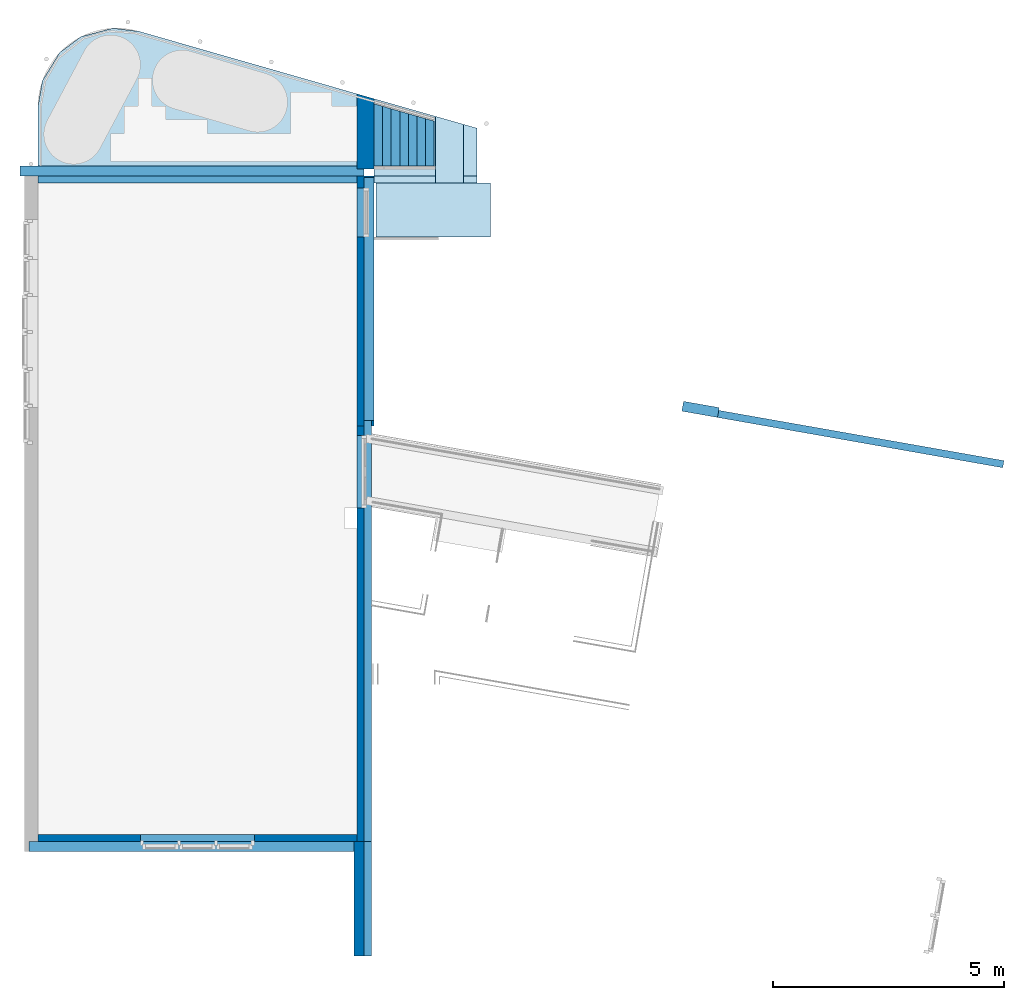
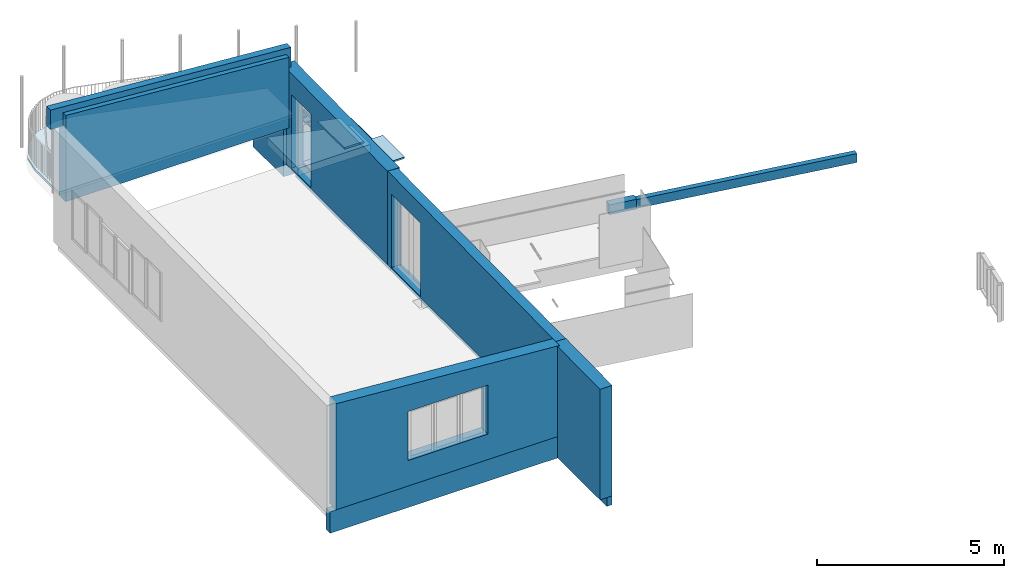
# One storey, part 4 of 9: 13 walls, 5 slabs, 1 stair flight, 11 openings, 2 elements without a shape of their own.
"""IFC2X3 building model written with IfcOpenShell, lengths in millimetres."""

from ifc_helpers import new_model, entity, si_unit, converted_unit, derived_unit, direction, frame, frame_2d, origin, origin_2d_with_axis, place, context, subcontext, project, spatial, polyline, rectangle, outline, extrude, clip, halfspace, bounded_halfspace, faceted_brep, material, layer, layer_set, layer_usage, type_object, element, aggregate, save


model = new_model("IFC2X3")

# Units and contexts
model_context = context("Model", 3, precision=0.01, world=origin(), true_north=direction((6.12303176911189e-17, 1.0)))
body_context = subcontext(model_context, "Body", "Model", "MODEL_VIEW")
ifc_project = project(units=[si_unit("LENGTHUNIT", "METRE", prefix="MILLI"), si_unit("AREAUNIT", "SQUARE_METRE"), si_unit("VOLUMEUNIT", "CUBIC_METRE"), converted_unit("PLANEANGLEUNIT", "DEGREE", entity("IfcRatioMeasure", 0.0174532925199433), si_unit("PLANEANGLEUNIT", "RADIAN"), dimensions=[0, 0, 0, 0, 0, 0, 0]), si_unit("MASSUNIT", "GRAM", prefix="KILO"), derived_unit("MASSDENSITYUNIT", [(si_unit("MASSUNIT", "GRAM", prefix="KILO"), 1), (si_unit("LENGTHUNIT", "METRE"), -3)]), si_unit("TIMEUNIT", "SECOND"), si_unit("FREQUENCYUNIT", "HERTZ"), si_unit("THERMODYNAMICTEMPERATUREUNIT", "DEGREE_CELSIUS"), derived_unit("THERMALTRANSMITTANCEUNIT", [(si_unit("MASSUNIT", "GRAM", prefix="KILO"), 1), (si_unit("THERMODYNAMICTEMPERATUREUNIT", "KELVIN"), -1), (si_unit("TIMEUNIT", "SECOND"), -3)]), derived_unit("VOLUMETRICFLOWRATEUNIT", [(si_unit("LENGTHUNIT", "METRE"), 3), (si_unit("TIMEUNIT", "SECOND"), -1)]), si_unit("ELECTRICCURRENTUNIT", "AMPERE"), si_unit("ELECTRICVOLTAGEUNIT", "VOLT"), si_unit("POWERUNIT", "WATT"), si_unit("FORCEUNIT", "NEWTON", prefix="KILO"), si_unit("ILLUMINANCEUNIT", "LUX"), si_unit("LUMINOUSFLUXUNIT", "LUMEN"), si_unit("LUMINOUSINTENSITYUNIT", "CANDELA"), derived_unit("USERDEFINED", [(si_unit("MASSUNIT", "GRAM", prefix="KILO"), -1), (si_unit("LENGTHUNIT", "METRE"), -2), (si_unit("TIMEUNIT", "SECOND"), 3), (si_unit("LUMINOUSFLUXUNIT", "LUMEN"), 1)]), derived_unit("LINEARVELOCITYUNIT", [(si_unit("LENGTHUNIT", "METRE"), 1), (si_unit("TIMEUNIT", "SECOND"), -1)]), si_unit("PRESSUREUNIT", "PASCAL"), derived_unit("USERDEFINED", [(si_unit("LENGTHUNIT", "METRE"), -2), (si_unit("MASSUNIT", "GRAM", prefix="KILO"), 1), (si_unit("TIMEUNIT", "SECOND"), -2)])], contexts=[model_context])

# Site, building, storey
site_placement = place(None, origin())
site = spatial("IfcSite", under=ifc_project, at=site_placement, Name="<Kadaster Gemeente>;<Kadaster nummer>;<Kadaster sectie>", CompositionType="ELEMENT")
building_placement = place(site_placement, origin())
building = spatial("IfcBuilding", under=site, at=building_placement, Name="JRCZ Middelburg", CompositionType="ELEMENT")
storey_placement = place(building_placement, frame((0.0, 0.0, 3700.0)))
storey = spatial("IfcBuildingStorey", under=building, at=storey_placement, Name="02 tweede verdieping", CompositionType="ELEMENT", Elevation=3700.0)

# Slabs
ifc_material_1 = material(Name="RBM_i2_hout_vuren_gen")
ifc_layer_1 = layer(ifc_material_1, 246.0)
ifc_layer_set_1 = layer_set([ifc_layer_1], Name="Floor:RBM_23_FL_balklaag dak_71x246mm h.o.h.400mm")
ifc_layer_usage_1 = layer_usage(ifc_layer_set_1, "AXIS3", "POSITIVE", 0.0)
slab_type_1 = type_object("IfcSlabType", Name="Floor:RBM_23_FL_balklaag dak_71x246mm h.o.h.400mm", PredefinedType="FLOOR", material=ifc_layer_set_1)
slab_1_placement = place(storey_placement, origin())
element("IfcSlab", 1, at=slab_1_placement, inside=storey, type_object=slab_type_1, material=ifc_layer_usage_1, Name="Floor:RBM_23_FL_balklaag dak_71x246mm h.o.h.400mm", ObjectType="Floor:RBM_23_FL_balklaag dak_71x246mm h.o.h.400mm", PredefinedType="FLOOR", context=body_context, shape_type="SweptSolid", body=[
    extrude(outline(polyline([(-674.678717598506, -1116.81643041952), (994.922385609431, -1116.81643041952), (354.435049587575, 1116.81643041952), (-674.678717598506, 1116.81643041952), (-674.678717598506, -1116.81643041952)])), frame((18532.8164304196, 25074.6787175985, -290.0), z_axis=(0.0, 0.0, -1.0), x_axis=(0.0, 1.0, 0.0)), (0.0, 0.0, 1.0), 246.0),
])
ifc_material_2 = material(Name="RBM_n7_dakisolatie_gen")
slab_type_2 = type_object("IfcSlabType", Name="Floor:RBM_23_FL_dakisolatie 30 mm afschot 15mm/m1", PredefinedType="FLOOR")
slab_2_placement = place(storey_placement, origin())
element("IfcSlab", 2, at=slab_2_placement, inside=storey, type_object=slab_type_2, material=ifc_material_2, Name="Floor:RBM_23_FL_dakisolatie 30 mm afschot 15mm/m1", ObjectType="Floor:RBM_23_FL_dakisolatie 30 mm afschot 15mm/m1", PredefinedType="FLOOR", context=body_context, shape_type="Brep", body=[
    faceted_brep([(17416.0, 24616.0, 1250.0), (10149.7972263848, 24616.0, 1250.0), (10149.7972263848, 25891.5576825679, 1250.0), (10198.0962399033, 26174.3185147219, 1250.0), (10246.3952534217, 26457.0793468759, 1250.0), (10339.828163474, 26609.5293102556, 1250.0), (10433.2610735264, 26761.9792736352, 1250.0), (10620.126893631, 27066.8792003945, 1250.0), (10850.1600666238, 27238.2595441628, 1250.0), (11080.1932396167, 27409.6398879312, 1250.0), (11425.8127732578, 27501.4545818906, 1250.0), (11771.432306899, 27593.2692758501, 1250.0), (11913.811750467, 27575.9570034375, 1250.0), (12056.191194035, 27558.644731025, 1250.0), (12340.950081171, 27524.0201861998, 1250.0), (17416.0, 26069.3456610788, 1250.0), (17416.0, 24616.0, 1340.0), (10149.7972263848, 24616.0, 1340.0), (12340.950081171, 27524.0201861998, 1296.379697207), (11985.0011800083, 27567.3009027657, 1295.73048645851), (11771.432306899, 27593.2692758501, 1295.34096086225), (11598.6225400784, 27547.3619288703, 1296.02957106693), (11425.8127732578, 27501.4545818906, 1296.71818127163), (11080.1932396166, 27409.6398879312, 1298.09540168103), (10850.1600666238, 27238.2595441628, 1300.66610683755), (10620.126893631, 27066.8792003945, 1303.23681199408), (10433.2610735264, 26761.9792736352, 1307.81031089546), (10246.3952534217, 26457.0793468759, 1312.38380979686), (10209.950360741, 26243.717055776, 1315.58424416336), (10149.7972263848, 25891.5576825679, 1320.86663476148), (17416.0, 26069.3456610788, 1318.19981508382)], [[[0, 1, 2, 3, 4, 5, 6, 7, 8, 9, 10, 11, 12, 13, 14, 15]], [[1, 0, 16, 17]], [[18, 19, 20, 21, 22, 23, 24, 25, 26, 27, 28, 29, 17, 16, 30]], [[1, 17, 29, 2]], [[26, 25, 7, 6, 5, 4, 27]], [[20, 19, 18, 14, 13, 12, 11]], [[29, 28, 27, 4, 3, 2]], [[7, 25, 24, 23, 9, 8]], [[11, 10, 9, 23, 22, 21, 20]], [[15, 14, 18, 30]], [[0, 15, 30, 16]]]),
])
ifc_material_3 = material(Name="ISR_RVS")
ifc_layer_2 = layer(ifc_material_3, 50.0)
ifc_layer_set_2 = layer_set([ifc_layer_2], Name="Floor:RBM_43_FL_bordes trap")
ifc_layer_usage_2 = layer_usage(ifc_layer_set_2, "AXIS3", "POSITIVE", 0.0)
slab_type_3 = type_object("IfcSlabType", Name="Floor:RBM_43_FL_bordes trap", PredefinedType="FLOOR", material=ifc_layer_set_2)
slab_3_placement = place(storey_placement, origin())
element("IfcSlab", 3, at=slab_3_placement, inside=storey, type_object=slab_type_3, material=ifc_layer_usage_2, Name="Floor:RBM_43_FL_bordes trap", ObjectType="Floor:RBM_43_FL_bordes trap", PredefinedType="FLOOR", context=body_context, shape_type="SweptSolid", body=[
    extrude(rectangle(XDim=1175.99999999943, YDim=2475.6328608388, at=frame_2d((-2.1600499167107e-12, 1.02318153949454e-12), x_axis=(1.0, 0.0))), frame((18699.8164304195, 23662.0, 0.0), z_axis=(0.0, 0.0, -1.0), x_axis=(0.0, 1.0, 0.0)), (0.0, 0.0, 1.0), 50.0),
])
ifc_material_4 = material(Name="RBM_f2_betontegels")
ifc_layer_3 = layer(ifc_material_4, 30.0)
ifc_material_5 = material(Name="RBM_n7_isolatie_zwevende dekvloer")
ifc_layer_4 = layer(ifc_material_5, 20.0)
ifc_layer_set_3 = layer_set([ifc_layer_3, ifc_layer_4], Name="Floor:RBM_43_FL_betontegels op dragers")
ifc_layer_usage_3 = layer_usage(ifc_layer_set_3, "AXIS3", "POSITIVE", 0.0)
slab_type_4 = type_object("IfcSlabType", Name="Floor:RBM_43_FL_betontegels op dragers", PredefinedType="FLOOR", material=ifc_layer_set_3)
slab_4_placement = place(storey_placement, origin())
element("IfcSlab", 4, at=slab_4_placement, inside=storey, type_object=slab_type_4, material=ifc_layer_usage_3, Name="Floor:RBM_43_FL_betontegels op dragers", ObjectType="Floor:RBM_43_FL_betontegels op dragers", PredefinedType="FLOOR", context=body_context, shape_type="SweptSolid", body=[
    extrude(outline(polyline([(-674.790204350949, -300.0), (760.814279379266, -300.0), (588.766129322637, 300.0), (-674.790204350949, 300.0), (-674.790204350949, -300.0)])), frame((19055.1482071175, 24924.7902043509, 0.0), z_axis=(0.0, 0.0, -1.0), x_axis=(0.0, 1.0, 0.0)), (0.0, 0.0, 1.0), 50.0),
])

# Roof, slab
roof_placement = place(storey_placement, frame((17416.0, 24250.0, -290.0)))
roof = element("IfcRoof", 5, at=roof_placement, inside=storey, Name="Basic Roof:RBM_27_RO_dakisolatie met afwerking_240mm", ObjectType="Basic Roof:RBM_27_RO_dakisolatie met afwerking_240mm", ShapeType="NOTDEFINED")
ifc_material_6 = material(Name="RBM_n7_dakisolatie_240mm")
ifc_layer_5 = layer(ifc_material_6, 240.0)
ifc_layer_set_4 = layer_set([ifc_layer_5], Name="Basic Roof:RBM_27_RO_dakisolatie met afwerking_240mm")
slab_5_placement = place(roof_placement, origin())
slab_5 = element("IfcSlab", 6, at=slab_5_placement, material=ifc_layer_set_4, Name="Basic Roof:RBM_27_RO_dakisolatie met afwerking_240mm", ObjectType="Basic Roof:RBM_27_RO_dakisolatie met afwerking_240mm", PredefinedType="ROOF", context=body_context, shape_type="SweptSolid", body=[
    extrude(outline(polyline([(1116.81643041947, -909.800551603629), (1116.81643041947, 269.313215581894), (-1116.81643041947, 909.800551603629), (-1116.81643041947, -909.800551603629), (1116.81643041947, -909.800551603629)])), frame((1116.81643041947, 909.800551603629, 0.0)), (0.0, 0.0, 1.0), 240.0),
])
aggregate(roof, [slab_5])

# Wall, opening
ifc_material_7 = material(Name="RBM_f7_gips_beplating wand")
ifc_layer_6 = layer(ifc_material_7, 12.5)
ifc_material_8 = material(Name="RBM_i4_multiplex_beplating")
ifc_layer_7 = layer(ifc_material_8, 18.0)
ifc_material_9 = material(Name="isolatie_steenwol_hsb_270")
ifc_layer_8 = layer(ifc_material_9, 270.0)
ifc_layer_9 = layer(ifc_material_8, 18.0)
ifc_layer_set_5 = layer_set([ifc_layer_6, ifc_layer_7, ifc_layer_8, ifc_layer_9], Name="Basic Wall:22_hsb_binnenwand_gips_318,5mm")
ifc_layer_usage_4 = layer_usage(ifc_layer_set_5, "AXIS2", "NEGATIVE", 159.25)
wall_type_1 = type_object("IfcWallType", Name="Basic Wall:22_hsb_binnenwand_gips_318,5mm", PredefinedType="STANDARD", material=ifc_layer_set_5)
wall_1_placement = place(storey_placement, frame((17209.2500000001, 18984.0, -35.0), z_axis=(0.0, 0.0, 1.0), x_axis=(0.0, -1.0, 0.0)))
wall_1 = element("IfcWallStandardCase", 7, at=wall_1_placement, inside=storey, type_object=wall_type_1, material=ifc_layer_usage_4, Name="Basic Wall:22_hsb_binnenwand_gips_318,5mm", ObjectType="Basic Wall:22_hsb_binnenwand_gips_318,5mm", context=body_context, shape_type="Clipping", body=[
    clip(extrude(rectangle(XDim=8983.99999999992, YDim=318.500000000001, at=frame_2d((4491.99999999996, 0.0), x_axis=(-1.0, 0.0))), origin(), (0.0, 0.0, 1.0), 3069.06616412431), bounded_halfspace(frame((8984.0, -9.25000000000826, 2940.98293479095), z_axis=(-0.0129871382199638, -0.0736537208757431, -0.997199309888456), x_axis=(-0.173161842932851, -0.982049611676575, 0.0747899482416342)), True, frame((8984.0, -9.25000000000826, 2940.98293479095)), polyline([(0.0, 0.0), (0.0, 168.500000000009), (-8984.0, 168.500000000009), (-8984.0, 0.0), (-8984.0, -150.0), (0.0, -150.0), (0.0, 0.0)]))),
])
opening_1_placement = place(wall_1_placement, origin())
element("IfcOpeningElement", 8, at=opening_1_placement, cuts=wall_1, Name="Basic Wall:22_hsb_binnenwand_gips_318,5mm", ObjectType="Opening", context=body_context, shape_type="SweptSolid", body=[
    extrude(rectangle(XDim=2400.0, YDim=1567.0, at=origin_2d_with_axis()), frame((985.410615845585, -311.649999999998, 1235.0), z_axis=(0.0, 1.0, 0.0), x_axis=(0.0, 0.0, 1.0)), (0.0, 0.0, 1.0), 623.299999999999),
])

# Walls
ifc_material_10 = material(Name="steenachtig_ntb_plaat_antraciet")
ifc_layer_10 = layer(ifc_material_10, 8.0)
ifc_material_11 = material(Name="hout_vuren_regel")
ifc_layer_11 = layer(ifc_material_11, 35.0)
ifc_layer_12 = layer(ifc_material_11, 35.0)
ifc_layer_13 = layer(ifc_material_9, 138.0)
ifc_layer_set_6 = layer_set([ifc_layer_10, ifc_layer_11, ifc_layer_12, ifc_layer_13], Name="Basic Wall:RBM_21_WA_dakrand/pas strook_rockpanel")
ifc_layer_usage_5 = layer_usage(ifc_layer_set_6, "AXIS2", "NEGATIVE", 108.0)
wall_type_2 = type_object("IfcWallType", Name="Basic Wall:RBM_21_WA_dakrand/pas strook_rockpanel", PredefinedType="STANDARD", material=ifc_layer_set_6)
wall_2_placement = place(storey_placement, frame((17050.0, 9892.0, -735.0), z_axis=(0.0, 0.0, 1.0), x_axis=(-1.0, 0.0, 0.0)))
element("IfcWallStandardCase", 9, at=wall_2_placement, inside=storey, type_object=wall_type_2, material=ifc_layer_usage_5, Name="Basic Wall:RBM_21_WA_dakrand/pas strook_rockpanel", ObjectType="Basic Wall:RBM_21_WA_dakrand/pas strook_rockpanel", context=body_context, shape_type="SweptSolid", body=[
    extrude(rectangle(XDim=7094.0, YDim=215.999999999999, at=frame_2d((3547.0, -1.00897068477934e-12), x_axis=(-1.0, 0.0))), origin(), (0.0, 0.0, 1.0), 700.0),
])
wall_3_placement = place(storey_placement, frame((17308.0, 24367.0, -355.0), z_axis=(0.0, 0.0, 1.0), x_axis=(0.0, -1.0, 0.0)))
element("IfcWall", 10, at=wall_3_placement, inside=storey, type_object=wall_type_2, Name="Basic Wall:RBM_21_WA_dakrand/pas strook_rockpanel", ObjectType="Basic Wall:RBM_21_WA_dakrand/pas strook_rockpanel", context=body_context, shape_type="Brep", body=[
    faceted_brep([(183.0, -108.0, 0.0), (5263.37661213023, -108.0, 0.0), (5263.37661213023, -108.0, 320.0), (0.0, -108.0, 320.0), (0.0, -108.0, 85.0), (183.0, -108.0, 85.0), (183.0, 108.0, 0.0), (183.0, 108.0, 85.0), (0.0, 108.0, 85.0), (0.0, 108.0, 320.0), (5263.37661213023, 108.0, 320.0), (5263.37661213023, 108.0, 0.0), (5263.37661213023, 60.5000000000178, 0.0), (5263.37661213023, -102.0, 0.0), (5263.37661213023, 60.5000000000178, 320.0), (5263.37661213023, -102.0, 320.0)], [[[0, 1, 2, 3, 4, 5]], [[6, 7, 8, 9, 10, 11]], [[1, 0, 6, 11, 12, 13]], [[2, 1, 13, 12, 11, 10, 14, 15]], [[3, 2, 15, 14, 10, 9]], [[4, 3, 9, 8]], [[4, 8, 7, 5]], [[0, 5, 7, 6]]]),
])

# Wall, opening
ifc_layer_usage_6 = layer_usage(ifc_layer_set_6, "AXIS2", "POSITIVE", -108.0)
wall_4_placement = place(storey_placement, frame((17200.0, 24508.0, 3096.33606714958), z_axis=(0.0, 0.0, 1.0), x_axis=(-1.0, 0.0, 0.0)))
wall_4 = element("IfcWallStandardCase", 11, at=wall_4_placement, inside=storey, type_object=wall_type_2, material=ifc_layer_usage_6, Name="Basic Wall:RBM_21_WA_dakrand/pas strook_rockpanel", ObjectType="Basic Wall:RBM_21_WA_dakrand/pas strook_rockpanel", context=body_context, shape_type="Clipping", body=[
    clip(clip(extrude(rectangle(XDim=7437.99999999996, YDim=216.000000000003, at=frame_2d((3718.99999999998, 3.5527136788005e-13), x_axis=(-1.0, 0.0))), origin(), (0.0, 0.0, 1.0), 1191.62236839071), halfspace(frame((0.0, -108.0, 640.529878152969), z_axis=(-0.0738889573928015, 0.0, 0.997266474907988), x_axis=(0.0, 1.0, 0.0)), False)), halfspace(frame((150.0, -108.0, 0.0), z_axis=(0.0, 0.0, -1.0), x_axis=(0.0, 1.0, 0.0)), False)),
])
opening_2_placement = place(wall_4_placement, origin())
element("IfcOpeningElement", 12, at=opening_2_placement, cuts=wall_4, Name="Basic Wall:RBM_21_WA_dakrand/pas strook_rockpanel", ObjectType="Opening", context=body_context, shape_type="SweptSolid", body=[
    extrude(outline(polyline([(-3644.0, -140.579176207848), (3644.0, -140.579176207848), (3644.0, 413.471541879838), (-3644.0, -132.313189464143), (-3644.0, -140.579176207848)])), frame((3794.0, 108.0, 140.579176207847), z_axis=(0.0, -1.0, 0.0), x_axis=(1.0, 0.0, 0.0)), (0.0, 0.0, 1.0), 216.0),
])

# Wall
ifc_layer_usage_7 = layer_usage(ifc_layer_set_6, "AXIS2", "NEGATIVE", 108.0)
wall_5_placement = place(storey_placement, frame((24098.1566121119, 19415.2200859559, -1055.0), z_axis=(0.0, 0.0, 1.0), x_axis=(0.984807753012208, -0.17364817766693, 0.0)))
element("IfcWallStandardCase", 13, at=wall_5_placement, inside=storey, type_object=wall_type_2, material=ifc_layer_usage_7, Name="Basic Wall:RBM_21_WA_dakrand/pas strook_rockpanel", ObjectType="Basic Wall:RBM_21_WA_dakrand/pas strook_rockpanel", context=body_context, shape_type="SweptSolid", body=[
    extrude(rectangle(XDim=784.14098151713, YDim=216.000000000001, at=frame_2d((392.070490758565, -2.70006239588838e-13), x_axis=(-1.0, 0.0))), origin(), (0.0, 0.0, 1.0), 320.0),
])

# Wall, openings
ifc_layer_14 = layer(ifc_material_10, 8.0)
ifc_material_12 = material(Name="ISR_Luchtspouw")
ifc_layer_15 = layer(ifc_material_12, 35.0)
ifc_layer_16 = layer(ifc_material_12, 35.0)
ifc_layer_17 = layer(ifc_material_9, 270.0)
ifc_layer_18 = layer(ifc_material_8, 18.0)
ifc_layer_set_7 = layer_set([ifc_layer_14, ifc_layer_15, ifc_layer_16, ifc_layer_17, ifc_layer_18], Name="Basic Wall:RBM_21_WA_hsb_ rockpanel_366mm")
ifc_layer_usage_8 = layer_usage(ifc_layer_set_7, "AXIS2", "NEGATIVE", 183.0)
wall_type_3 = type_object("IfcWallType", Name="Basic Wall:RBM_21_WA_hsb_ rockpanel_366mm", PredefinedType="STANDARD", material=ifc_layer_set_7)
wall_6_placement = place(storey_placement, frame((17050.0, 9967.0, -35.0), z_axis=(0.0, 0.0, 1.0), x_axis=(-1.0, 0.0, 0.0)))
wall_6 = element("IfcWallStandardCase", 14, at=wall_6_placement, inside=storey, type_object=wall_type_3, material=ifc_layer_usage_8, Name="Basic Wall:RBM_21_WA_hsb_ rockpanel_366mm", ObjectType="Basic Wall:RBM_21_WA_hsb_ rockpanel_366mm", context=body_context, shape_type="Clipping", body=[
    clip(extrude(rectangle(XDim=6900.0, YDim=365.999999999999, at=frame_2d((3450.0, -4.12114786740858e-13), x_axis=(-1.0, 0.0))), origin(), (0.0, 0.0, 1.0), 3465.31756693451), halfspace(frame((0.0, -183.0, 2952.06202201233), z_axis=(-0.0741799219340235, 0.0, 0.997244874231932), x_axis=(0.0, 1.0, 0.0)), False)),
])
opening_3_placement = place(wall_6_placement, origin())
element("IfcOpeningElement", 15, at=opening_3_placement, cuts=wall_6, Name="Basic Wall:RBM_21_WA_hsb_ rockpanel_366mm", ObjectType="Opening", context=body_context, shape_type="SweptSolid", body=[
    extrude(rectangle(XDim=1600.0, YDim=774.999999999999, at=frame_2d((1.08002495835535e-12, 0.0), x_axis=(0.0, 1.0))), frame((4250.0, -335.400000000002, 1635.0), z_axis=(0.0, 1.0, 0.0), x_axis=(-1.0, 0.0, 0.0)), (0.0, 0.0, 1.0), 670.800000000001),
])
opening_4_placement = place(wall_6_placement, origin())
element("IfcOpeningElement", 16, at=opening_4_placement, cuts=wall_6, Name="Basic Wall:RBM_21_WA_hsb_ rockpanel_366mm", ObjectType="Opening", context=body_context, shape_type="SweptSolid", body=[
    extrude(rectangle(XDim=1600.0, YDim=862.999999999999, at=origin_2d_with_axis()), frame((4250.0, -335.400000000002, 1635.0), z_axis=(0.0, 1.0, 0.0), x_axis=(0.0, 0.0, 1.0)), (0.0, 0.0, 1.0), 670.800000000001),
])
opening_5_placement = place(wall_6_placement, origin())
element("IfcOpeningElement", 17, at=opening_5_placement, cuts=wall_6, Name="Basic Wall:RBM_21_WA_hsb_ rockpanel_366mm", ObjectType="Opening", context=body_context, shape_type="SweptSolid", body=[
    extrude(rectangle(XDim=1600.0, YDim=774.999999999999, at=frame_2d((1.08002495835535e-12, 0.0), x_axis=(0.0, 1.0))), frame((3450.0, -335.4, 1635.0), z_axis=(0.0, 1.0, 0.0), x_axis=(-1.0, 0.0, 0.0)), (0.0, 0.0, 1.0), 670.799999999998),
])
opening_6_placement = place(wall_6_placement, origin())
element("IfcOpeningElement", 18, at=opening_6_placement, cuts=wall_6, Name="Basic Wall:RBM_21_WA_hsb_ rockpanel_366mm", ObjectType="Opening", context=body_context, shape_type="SweptSolid", body=[
    extrude(rectangle(XDim=1600.0, YDim=774.999999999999, at=frame_2d((1.08002495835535e-12, 0.0), x_axis=(0.0, 1.0))), frame((2650.0, -335.4, 1635.0), z_axis=(0.0, 1.0, 0.0), x_axis=(-1.0, 0.0, 0.0)), (0.0, 0.0, 1.0), 670.799999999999),
])
opening_7_placement = place(wall_6_placement, origin())
element("IfcOpeningElement", 19, at=opening_7_placement, cuts=wall_6, Name="Basic Wall:RBM_21_WA_hsb_ rockpanel_366mm", ObjectType="Opening", context=body_context, shape_type="SweptSolid", body=[
    extrude(rectangle(XDim=1600.0, YDim=862.999999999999, at=origin_2d_with_axis()), frame((2650.0, -335.4, 1635.0), z_axis=(0.0, 1.0, 0.0), x_axis=(0.0, 0.0, 1.0)), (0.0, 0.0, 1.0), 670.799999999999),
])
opening_8_placement = place(wall_6_placement, origin())
element("IfcOpeningElement", 20, at=opening_8_placement, cuts=wall_6, Name="Basic Wall:RBM_21_WA_hsb_ rockpanel_366mm", ObjectType="Opening", context=body_context, shape_type="SweptSolid", body=[
    extrude(rectangle(XDim=1600.0, YDim=862.999999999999, at=origin_2d_with_axis()), frame((3450.0, -335.400000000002, 1635.0), z_axis=(0.0, 1.0, 0.0), x_axis=(0.0, 0.0, 1.0)), (0.0, 0.0, 1.0), 670.799999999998),
])

# Wall
ifc_layer_usage_9 = layer_usage(ifc_layer_set_7, "AXIS2", "POSITIVE", -183.0)
wall_7_placement = place(storey_placement, frame((17050.0, 24433.0, 1250.0), z_axis=(0.0, 0.0, 1.0), x_axis=(-1.0, 0.0, 0.0)))
element("IfcWallStandardCase", 21, at=wall_7_placement, inside=storey, type_object=wall_type_3, material=ifc_layer_usage_9, Name="Basic Wall:RBM_21_WA_hsb_ rockpanel_366mm", ObjectType="Basic Wall:RBM_21_WA_hsb_ rockpanel_366mm", context=body_context, shape_type="Clipping", body=[
    clip(clip(clip(extrude(rectangle(XDim=6900.0, YDim=366.000000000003, at=frame_2d((3450.0, -4.54747350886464e-13), x_axis=(-1.0, 0.0))), origin(), (0.0, 0.0, 1.0), 2817.85951051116), bounded_halfspace(frame((0.0, 33.0, 1854.60205389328), z_axis=(0.0, 1.0, 0.0), x_axis=(-1.0, 0.0, 0.0)), True, frame((0.0, 33.0, 1854.60205389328), z_axis=(0.0, 1.0, 0.0), x_axis=(-1.0, 0.0, 0.0)), polyline([(0.0, 0.0), (0.0, 450.0935138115), (-6900.0, 963.257456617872), (-6900.0, 516.728134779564), (0.0, 0.0)]))), bounded_halfspace(frame((6900.0, 33.0, 2371.33018867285), z_axis=(0.0746790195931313, 0.0, -0.997207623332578), x_axis=(0.0, 1.0, 0.0)), True, frame((6900.0, 33.0, 2371.33018867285), z_axis=(0.0746790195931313, 0.0, -0.997207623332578), x_axis=(0.0, 1.0, 0.0)), polyline([(0.0, 0.0), (-216.0, 0.0), (-216.0, -6919.32135149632), (0.0, -6919.32135149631), (0.0, 0.0)]))), halfspace(frame((6900.0, 183.0, 2817.85951051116), z_axis=(-0.0741667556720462, 0.0, 0.997245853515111), x_axis=(0.0, 1.0, 0.0)), False)),
])

# Wall, opening
ifc_layer_usage_10 = layer_usage(ifc_layer_set_7, "AXIS2", "NEGATIVE", 183.0)
wall_8_placement = place(storey_placement, frame((17233.0, 24616.0, -35.0), z_axis=(0.0, 0.0, 1.0), x_axis=(0.0, -1.0, 0.0)))
wall_8 = element("IfcWallStandardCase", 22, at=wall_8_placement, inside=storey, type_object=wall_type_3, material=ifc_layer_usage_10, Name="Basic Wall:RBM_21_WA_hsb_ rockpanel_366mm", ObjectType="Basic Wall:RBM_21_WA_hsb_ rockpanel_366mm", context=body_context, shape_type="Clipping", body=[
    clip(clip(clip(extrude(rectangle(XDim=5632.00000000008, YDim=365.999999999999, at=frame_2d((2816.00000000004, -5.6843418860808e-14), x_axis=(-1.0, 0.0))), origin(), (0.0, 0.0, 1.0), 3131.33606714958), bounded_halfspace(frame((216.0, 183.0, 1284.77699803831), z_axis=(0.0, 0.0, 1.0), x_axis=(0.0, 1.0, 0.0)), True, frame((216.0, 183.0, 1284.77699803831), z_axis=(0.0, 0.0, 1.0), x_axis=(0.0, 1.0, 0.0)), polyline([(0.0, 0.0), (0.0, 216.0), (-366.0, 216.0), (-366.0, 0.0), (0.0, 0.0)]))), bounded_halfspace(frame((216.0, -183.0, 1284.77699803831), z_axis=(1.0, 0.0, 0.0), x_axis=(0.0, 1.0, 0.0)), True, frame((216.0, -183.0, 1284.77699803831), z_axis=(1.0, 0.0, 0.0), x_axis=(0.0, 1.0, 0.0)), polyline([(0.0, 0.0), (0.0, -449.776998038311), (0.0, -1284.77699803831), (366.0, -1284.77699803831), (366.0, 0.0), (0.0, 0.0)]))), halfspace(frame((0.0, -183.0, 3131.33606714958), z_axis=(0.0130225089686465, 0.0, 0.999915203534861), x_axis=(0.0, 1.0, 0.0)), False)),
])
opening_9_placement = place(wall_8_placement, origin())
element("IfcOpeningElement", 23, at=opening_9_placement, cuts=wall_8, Name="Basic Wall:RBM_21_WA_hsb_ rockpanel_366mm", ObjectType="Opening", context=body_context, shape_type="SweptSolid", body=[
    extrude(rectangle(XDim=2400.0, YDim=1064.0, at=origin_2d_with_axis()), frame((1010.0, -335.400000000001, 1235.0), z_axis=(0.0, 1.0, 0.0), x_axis=(0.0, 0.0, 1.0)), (0.0, 0.0, 1.0), 670.799999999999),
])

ifc_layer_usage_11 = layer_usage(ifc_layer_set_7, "AXIS2", "NEGATIVE", 183.0)
wall_9_placement = place(storey_placement, frame((17233.0, 26174.5504747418, -536.0), z_axis=(0.0, 0.0, 1.0), x_axis=(0.0, -1.0, 0.0)))
wall_9 = element("IfcWallStandardCase", 24, at=wall_9_placement, inside=storey, type_object=wall_type_3, material=ifc_layer_usage_11, Name="Basic Wall:RBM_21_WA_hsb_ rockpanel_366mm", ObjectType="Basic Wall:RBM_21_WA_hsb_ rockpanel_366mm", context=body_context, shape_type="SweptSolid", body=[
    extrude(outline(polyline([(1624.55047474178, -183.0), (1624.55047474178, 183.0), (104.949371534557, 183.0), (0.0, -183.0), (1624.55047474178, -183.0)])), origin(), (0.0, 0.0, 1.0), 1785.77699803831),
])
opening_10_placement = place(wall_9_placement, origin())
element("IfcOpeningElement", 25, at=opening_10_placement, cuts=wall_9, Name="Basic Wall:RBM_21_WA_hsb_ rockpanel_366mm", ObjectType="Opening", context=body_context, shape_type="SweptSolid", body=[
    extrude(rectangle(XDim=2400.0, YDim=1064.0, at=origin_2d_with_axis()), frame((2568.5504747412, -335.400000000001, 1736.0), z_axis=(0.0, 1.0, 0.0), x_axis=(0.0, 0.0, 1.0)), (0.0, 0.0, 1.0), 670.799999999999),
])

# Walls
ifc_layer_19 = layer(ifc_material_10, 8.0)
ifc_layer_20 = layer(ifc_material_12, 35.0)
ifc_layer_21 = layer(ifc_material_12, 35.0)
ifc_layer_22 = layer(ifc_material_9, 270.0)
ifc_layer_23 = layer(ifc_material_8, 18.0)
ifc_layer_24 = layer(ifc_material_7, 12.5)
ifc_layer_set_8 = layer_set([ifc_layer_19, ifc_layer_20, ifc_layer_21, ifc_layer_22, ifc_layer_23, ifc_layer_24], Name="Basic Wall:21_RBM_WA_hsb_270mm + rockpanel +afwerking gips binnen")
ifc_layer_usage_12 = layer_usage(ifc_layer_set_8, "AXIS2", "NEGATIVE", 189.25)
wall_type_4 = type_object("IfcWallType", Name="Basic Wall:21_RBM_WA_hsb_270mm + rockpanel +afwerking gips binnen", PredefinedType="STANDARD", material=ifc_layer_set_8)
wall_10_placement = place(storey_placement, frame((17179.2500000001, 7523.45407694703, -735.0), z_axis=(0.0, 0.0, 1.0), x_axis=(0.0, 1.0, 0.0)))
element("IfcWallStandardCase", 26, at=wall_10_placement, inside=storey, type_object=wall_type_4, material=ifc_layer_usage_12, Name="Basic Wall:21_RBM_WA_hsb_270mm + rockpanel +afwerking gips binnen", ObjectType="Basic Wall:21_RBM_WA_hsb_270mm + rockpanel +afwerking gips binnen", context=body_context, shape_type="Clipping", body=[
    clip(extrude(rectangle(XDim=2476.54592305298, YDim=378.500000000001, at=frame_2d((1238.27296152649, -1.4210854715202e-14), x_axis=(-1.0, 0.0))), origin(), (0.0, 0.0, 1.0), 3640.98432988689), halfspace(frame((0.0, -189.25, 3608.698762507), z_axis=(-0.0130354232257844, 0.0, 0.999915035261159), x_axis=(0.0, 1.0, 0.0)), False)),
])
ifc_layer_25 = layer(ifc_material_9, 132.0)
ifc_layer_26 = layer(ifc_material_8, 18.0)
ifc_layer_27 = layer(ifc_material_7, 12.5)
ifc_layer_set_9 = layer_set([ifc_layer_25, ifc_layer_26, ifc_layer_27], Name="Basic Wall:22_hsb_270 passtrook + gips")
ifc_layer_usage_13 = layer_usage(ifc_layer_set_9, "AXIS2", "NEGATIVE", 81.25)
wall_type_5 = type_object("IfcWallType", Name="Basic Wall:22_hsb_270 passtrook + gips", PredefinedType="STANDARD", material=ifc_layer_set_9)
wall_11_placement = place(storey_placement, frame((17287.2500000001, 7523.45407694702, -1024.0), z_axis=(0.0, 0.0, 1.0), x_axis=(0.0, 1.0, 0.0)))
element("IfcWallStandardCase", 27, at=wall_11_placement, inside=storey, type_object=wall_type_5, material=ifc_layer_usage_13, Name="Basic Wall:22_hsb_270 passtrook + gips", ObjectType="Basic Wall:22_hsb_270 passtrook + gips", context=body_context, shape_type="SweptSolid", body=[
    extrude(rectangle(XDim=2476.54592305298, YDim=162.500000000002, at=frame_2d((1238.27296152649, -2.1316282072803e-14), x_axis=(-1.0, 0.0))), origin(), (0.0, 0.0, 1.0), 288.999999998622),
])

# Wall, opening
ifc_layer_usage_14 = layer_usage(ifc_layer_set_9, "AXIS2", "POSITIVE", -81.25)
wall_12_placement = place(storey_placement, frame((17287.2500000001, 19103.6233878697, -355.0), z_axis=(0.0, 0.0, 1.0), x_axis=(0.0, -1.0, 0.0)))
wall_12 = element("IfcWallStandardCase", 28, at=wall_12_placement, inside=storey, type_object=wall_type_5, material=ifc_layer_usage_14, Name="Basic Wall:22_hsb_270 passtrook + gips", ObjectType="Basic Wall:22_hsb_270 passtrook + gips", context=body_context, shape_type="Clipping", body=[
    clip(extrude(rectangle(XDim=9103.62338786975, YDim=162.500000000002, at=frame_2d((4551.81169393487, -9.2370555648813e-14), x_axis=(-1.0, 0.0))), origin(), (0.0, 0.0, 1.0), 320.0), halfspace(frame((0.0, -81.2499999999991, 320.0), z_axis=(0.0, 0.0, 1.0), x_axis=(0.0, 1.0, 0.0)), False)),
])
opening_11_placement = place(wall_12_placement, origin())
element("IfcOpeningElement", 29, at=opening_11_placement, cuts=wall_12, Name="Basic Wall:22_hsb_270 passtrook + gips", ObjectType="Opening", context=body_context, shape_type="SweptSolid", body=[
    extrude(rectangle(XDim=2400.0, YDim=1567.0, at=origin_2d_with_axis()), frame((1105.03400371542, -233.649999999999, 1555.0), z_axis=(0.0, 1.0, 0.0), x_axis=(0.0, 0.0, 1.0)), (0.0, 0.0, 1.0), 467.3),
])

# Wall
ifc_layer_28 = layer(ifc_material_9, 138.0)
ifc_layer_29 = layer(ifc_material_8, 18.0)
ifc_layer_set_10 = layer_set([ifc_layer_28, ifc_layer_29], Name="Basic Wall:22_hsb_270 passtrook + 6")
ifc_layer_usage_15 = layer_usage(ifc_layer_set_10, "AXIS2", "POSITIVE", -78.0)
wall_type_6 = type_object("IfcWallType", Name="Basic Wall:22_hsb_270 passtrook + 6", PredefinedType="STANDARD", material=ifc_layer_set_10)
wall_13_placement = place(storey_placement, frame((24865.1752848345, 19249.5112008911, -1035.0), z_axis=(0.0, 0.0, 1.0), x_axis=(0.984807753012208, -0.173648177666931, 0.0)))
element("IfcWallStandardCase", 30, at=wall_13_placement, inside=storey, type_object=wall_type_6, material=ifc_layer_usage_15, Name="Basic Wall:22_hsb_270 passtrook + 6", ObjectType="Basic Wall:22_hsb_270 passtrook + 6", context=body_context, shape_type="SweptSolid", body=[
    extrude(rectangle(XDim=6265.85901848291, YDim=156.000000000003, at=frame_2d((3132.92950924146, 5.32907051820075e-13), x_axis=(-1.0, 0.0))), origin(), (0.0, 0.0, 1.0), 289.999999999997),
])

# Stair, stair flight
stair_placement = place(storey_placement, origin())
stair = element("IfcStair", 31, at=stair_placement, inside=storey, Name="Assembled Stair:Stair", ObjectType="Assembled Stair:RBM_24_ST_stalen vluchttrap", ShapeType="NOTDEFINED")
ifc_material_13 = material(Name="RBM_h3_RVS")
stair_flight_placement = place(stair_placement, origin())
stair_flight = element("IfcStairFlight", 32, at=stair_flight_placement, material=ifc_material_13, Name="Assembled Stair:Stair:2870841 Run 1", ObjectType="Non-Monolithic Run:40 mm persrooster", NumberOfRiser=8, NumberOfTreads=7, RiserHeight=0.675306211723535, TreadLength=0.606955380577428, context=body_context, shape_type="SweptSolid", body=[
    extrude(outline(polyline([(-112.5, -501.014476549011), (112.5, -501.014476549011), (112.500000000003, 468.75544841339), (-112.499999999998, 533.273504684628), (-112.5, -501.014476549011)])), frame((18605.8108304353, 25117.014476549, 95.8333333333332)), (0.0, 0.0, 1.0), 40.0000000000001),
    extrude(outline(polyline([(-112.5, -527.538566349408), (112.5, -527.538566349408), (112.500000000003, 495.279538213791), (-112.499999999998, 559.797594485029), (-112.5, -527.538566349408)])), frame((18420.8108304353, 25143.5385663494, 301.666666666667)), (0.0, 0.0, 1.0), 40.0000000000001),
    extrude(outline(polyline([(-112.5, -554.062656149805), (112.5, -554.062656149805), (112.500000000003, 521.803628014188), (-112.499999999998, 586.321684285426), (-112.5, -554.062656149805)])), frame((18235.8108304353, 25170.0626561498, 507.5)), (0.0, 0.0, 1.0), 40.0000000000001),
    extrude(outline(polyline([(-112.499999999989, -580.586745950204), (112.500000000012, -580.586745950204), (112.499999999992, 548.327717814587), (-112.50000000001, 612.845774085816), (-112.499999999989, -580.586745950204)])), frame((18050.8108304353, 25196.5867459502, 713.333333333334)), (0.0, 0.0, 1.0), 40.0000000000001),
    extrude(outline(polyline([(-112.499999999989, -607.1108357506), (112.500000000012, -607.1108357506), (112.499999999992, 574.851807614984), (-112.500000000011, 639.369863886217), (-112.499999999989, -607.1108357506)])), frame((17865.8108304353, 25223.1108357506, 919.166666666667)), (0.0, 0.0, 1.0), 40.0000000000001),
    extrude(outline(polyline([(-112.5, -633.634925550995), (112.5, -633.634925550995), (112.500000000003, 601.375897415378), (-112.499999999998, 665.893953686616), (-112.5, -633.634925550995)])), frame((17680.8108304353, 25249.634925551, 1125.0)), (0.0, 0.0, 1.0), 40.0000000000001),
    extrude(outline(polyline([(-112.5, -660.159015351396), (112.5, -660.159015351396), (112.500000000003, 627.899987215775), (-112.499999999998, 692.418043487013), (-112.5, -660.159015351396)])), frame((17495.8108304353, 25276.1590153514, 1330.83333333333)), (0.0, 0.0, 1.0), 39.9999999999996),
])
aggregate(stair, [stair_flight])

save(model, "model.ifc")
